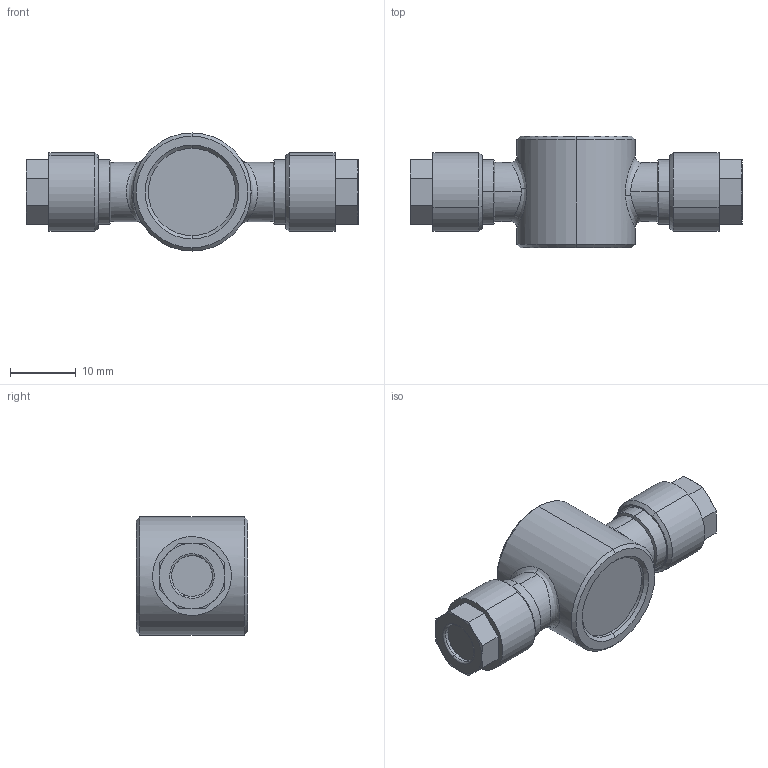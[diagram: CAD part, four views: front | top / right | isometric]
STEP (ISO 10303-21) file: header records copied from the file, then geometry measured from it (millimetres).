
FILE_DESCRIPTION (( 'STEP AP214' ), '1' );
FILE_NAME ('0151000007.step', '2012-09-28T13:27:32', ( '' ), ( '' ), 'SwSTEP 2.0', 'SolidWorks 2012', '' );
FILE_SCHEMA (( 'AUTOMOTIVE_DESIGN' ));
Length unit declared in the file: millimetre
Products named in the file (1): 0151000007
Bounding box: 50.6 x 17 x 18 mm (x, y, z)
Volume: 6918.2 mm3; surface area: 2869.5 mm2
Topology: 1 solids, 1 shells, 96 faces, 210 edges, 126 vertices
Faces by surface type: cone 38, plane 28, cylinder 22, torus 4, bspline 4
Entity records: 4488 total; most frequent: CARTESIAN_POINT 1327, DIRECTION 442, ORIENTED_EDGE 420, EDGE_CURVE 210, AXIS2_PLACEMENT_3D 183, VERTEX_POINT 126, EDGE_LOOP 106, UNCERTAINTY_MEASURE_WITH_UNIT 99
